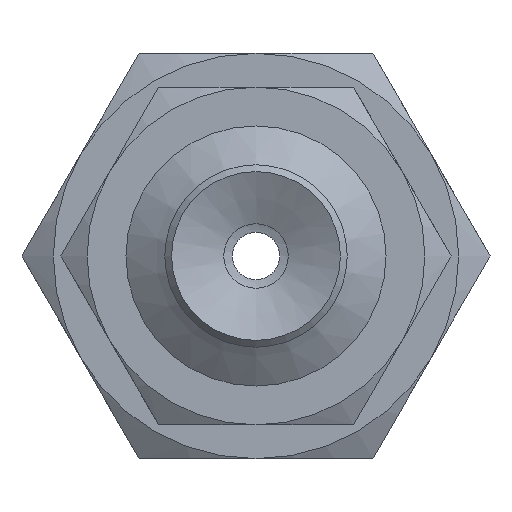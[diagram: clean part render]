
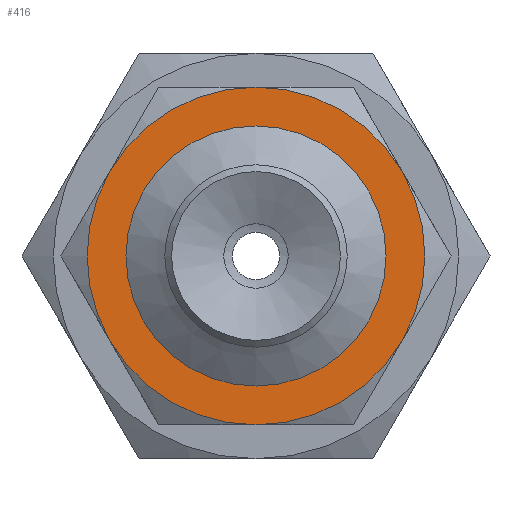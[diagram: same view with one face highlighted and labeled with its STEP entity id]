
A CAD part, front view. The second image highlights one B-rep face of the part: STEP entity #416.
In plain terms, the highlighted planar face has unit normal (0, -1, 0).
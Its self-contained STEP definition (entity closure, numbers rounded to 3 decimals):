
#416=ADVANCED_FACE('',(#543,#544),#545,.T.);
#543=FACE_BOUND('',#789,.T.);
#544=FACE_OUTER_BOUND('',#790,.T.);
#545=PLANE('',#791);
#789=EDGE_LOOP('',(#1153));
#790=EDGE_LOOP('',(#1154,#1155,#1156,#1157,#1158,#1159));
#791=AXIS2_PLACEMENT_3D('',#1160,#1161,#1162);
#1153=ORIENTED_EDGE('',*,*,#1709,.F.);
#1154=ORIENTED_EDGE('',*,*,#1683,.T.);
#1155=ORIENTED_EDGE('',*,*,#1717,.T.);
#1156=ORIENTED_EDGE('',*,*,#1697,.T.);
#1157=ORIENTED_EDGE('',*,*,#1699,.T.);
#1158=ORIENTED_EDGE('',*,*,#1718,.T.);
#1159=ORIENTED_EDGE('',*,*,#1719,.T.);
#1160=CARTESIAN_POINT('',(2.0,0.,0.0));
#1161=DIRECTION('',(0.0,-1.0,0.0));
#1162=DIRECTION('',(0.0,0.0,-1.0));
#1683=EDGE_CURVE('',#1863,#1869,#1871,.T.);
#1697=EDGE_CURVE('',#1894,#1887,#1896,.T.);
#1699=EDGE_CURVE('',#1887,#1897,#1899,.T.);
#1709=EDGE_CURVE('',#1913,#1913,#1914,.T.);
#1717=EDGE_CURVE('',#1869,#1894,#1928,.T.);
#1718=EDGE_CURVE('',#1897,#1846,#1929,.T.);
#1719=EDGE_CURVE('',#1846,#1863,#1930,.T.);
#1846=VERTEX_POINT('',#2146);
#1863=VERTEX_POINT('',#2176);
#1869=VERTEX_POINT('',#2189);
#1871=CIRCLE('',#2193,5.0);
#1887=VERTEX_POINT('',#2221);
#1894=VERTEX_POINT('',#2235);
#1896=CIRCLE('',#2239,5.0);
#1897=VERTEX_POINT('',#2240);
#1899=CIRCLE('',#2244,5.0);
#1913=VERTEX_POINT('',#2263);
#1914=CIRCLE('',#2264,2.0);
#1928=CIRCLE('',#2280,5.0);
#1929=CIRCLE('',#2281,5.0);
#1930=CIRCLE('',#2282,5.0);
#2146=CARTESIAN_POINT('',(-4.33,0.0,-2.5));
#2176=CARTESIAN_POINT('',(0.0,0.0,-5.0));
#2189=CARTESIAN_POINT('',(4.33,0.0,-2.5));
#2193=AXIS2_PLACEMENT_3D('',#2798,#2799,#2800);
#2221=CARTESIAN_POINT('',(0.0,0.0,5.0));
#2235=CARTESIAN_POINT('',(4.33,0.0,2.5));
#2239=AXIS2_PLACEMENT_3D('',#2807,#2808,#2809);
#2240=CARTESIAN_POINT('',(-4.33,0.,2.5));
#2244=AXIS2_PLACEMENT_3D('',#2810,#2811,#2812);
#2263=CARTESIAN_POINT('',(0.0,0.,-2.0));
#2264=AXIS2_PLACEMENT_3D('',#2832,#2833,#2834);
#2280=AXIS2_PLACEMENT_3D('',#2853,#2854,#2855);
#2281=AXIS2_PLACEMENT_3D('',#2856,#2857,#2858);
#2282=AXIS2_PLACEMENT_3D('',#2859,#2860,#2861);
#2798=CARTESIAN_POINT('',(0.0,0.,0.0));
#2799=DIRECTION('',(0.0,-1.0,0.0));
#2800=DIRECTION('',(0.0,0.0,-1.0));
#2807=CARTESIAN_POINT('',(0.0,0.,0.0));
#2808=DIRECTION('',(0.0,-1.0,0.0));
#2809=DIRECTION('',(0.0,0.0,-1.0));
#2810=CARTESIAN_POINT('',(0.0,0.,0.0));
#2811=DIRECTION('',(0.0,-1.0,0.0));
#2812=DIRECTION('',(0.0,0.0,-1.0));
#2832=CARTESIAN_POINT('',(0.0,0.,0.0));
#2833=DIRECTION('',(0.0,-1.0,0.0));
#2834=DIRECTION('',(0.0,0.0,-1.0));
#2853=CARTESIAN_POINT('',(0.0,0.,0.0));
#2854=DIRECTION('',(0.0,-1.0,0.0));
#2855=DIRECTION('',(0.0,0.0,-1.0));
#2856=CARTESIAN_POINT('',(0.0,0.,0.0));
#2857=DIRECTION('',(0.0,-1.0,0.0));
#2858=DIRECTION('',(0.0,0.0,-1.0));
#2859=CARTESIAN_POINT('',(0.0,0.,0.0));
#2860=DIRECTION('',(0.0,-1.0,0.0));
#2861=DIRECTION('',(0.0,0.0,-1.0));
